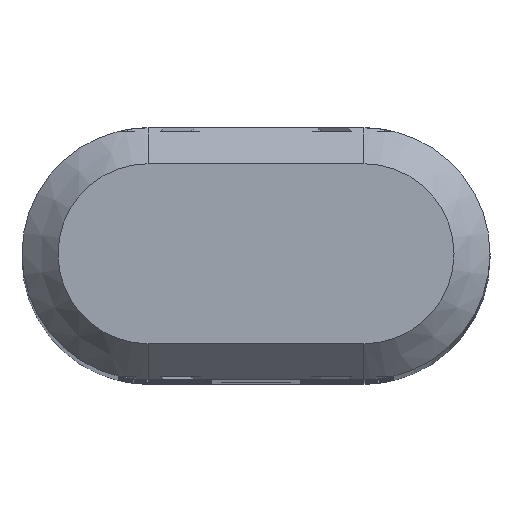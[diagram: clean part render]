
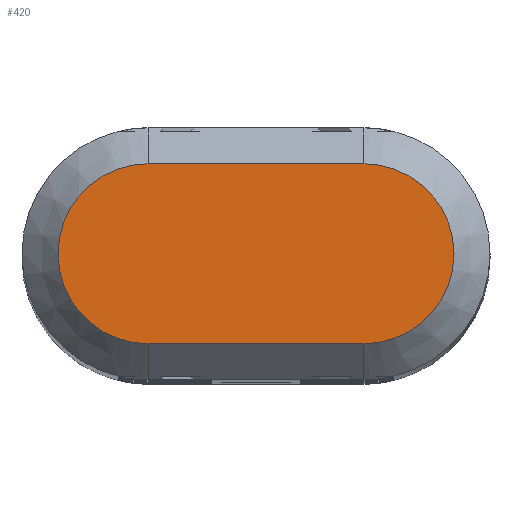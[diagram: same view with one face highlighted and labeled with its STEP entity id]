
A CAD part, top view. The second image highlights one B-rep face of the part: STEP entity #420.
In plain terms, the highlighted planar face has unit normal (0, 0, 1).
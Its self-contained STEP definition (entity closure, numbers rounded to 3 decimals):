
#10=CARTESIAN_POINT('',(13.869,4.044,
17.));
#20=DIRECTION('',(0.,0.,1.));
#30=DIRECTION('',(-1.,0.,0.));
#40=AXIS2_PLACEMENT_3D('',#10,#20,#30);
#50=PLANE('',#40);
#60=CARTESIAN_POINT('',(13.869,9.044,
17.));
#70=DIRECTION('',(1.,0.,0.));
#80=VECTOR('',#70,1.);
#90=LINE('',#60,#80);
#100=CARTESIAN_POINT('',(7.869,9.044,
17.));
#110=VERTEX_POINT('',#100);
#120=CARTESIAN_POINT('',(19.869,9.044,
17.));
#130=VERTEX_POINT('',#120);
#140=EDGE_CURVE('',#110,#130,#90,.T.);
#150=ORIENTED_EDGE('',*,*,#140,.F.);
#160=CARTESIAN_POINT('',(19.869,4.044,
17.));
#170=DIRECTION('',(0.,0.,1.));
#180=DIRECTION('',(-1.,0.,0.));
#190=AXIS2_PLACEMENT_3D('',#160,#170,#180);
#200=CIRCLE('',#190,5.);
#210=CARTESIAN_POINT('',(19.869,-0.956,
17.));
#220=VERTEX_POINT('',#210);
#230=EDGE_CURVE('',#220,#130,#200,.T.);
#240=ORIENTED_EDGE('',*,*,#230,.T.);
#250=CARTESIAN_POINT('',(13.869,-0.956,
17.));
#260=DIRECTION('',(-1.,0.,0.));
#270=VECTOR('',#260,1.);
#280=LINE('',#250,#270);
#290=CARTESIAN_POINT('',(7.869,-0.956,
17.));
#300=VERTEX_POINT('',#290);
#310=EDGE_CURVE('',#220,#300,#280,.T.);
#320=ORIENTED_EDGE('',*,*,#310,.F.);
#330=CARTESIAN_POINT('',(7.869,4.044,
17.));
#340=DIRECTION('',(0.,0.,1.));
#350=DIRECTION('',(-1.,0.,0.));
#360=AXIS2_PLACEMENT_3D('',#330,#340,#350);
#370=CIRCLE('',#360,5.);
#380=EDGE_CURVE('',#110,#300,#370,.T.);
#390=ORIENTED_EDGE('',*,*,#380,.T.);
#400=EDGE_LOOP('',(#390,#320,#240,#150));
#410=FACE_OUTER_BOUND('',#400,.T.);
#420=ADVANCED_FACE('',(#410),#50,.T.);
